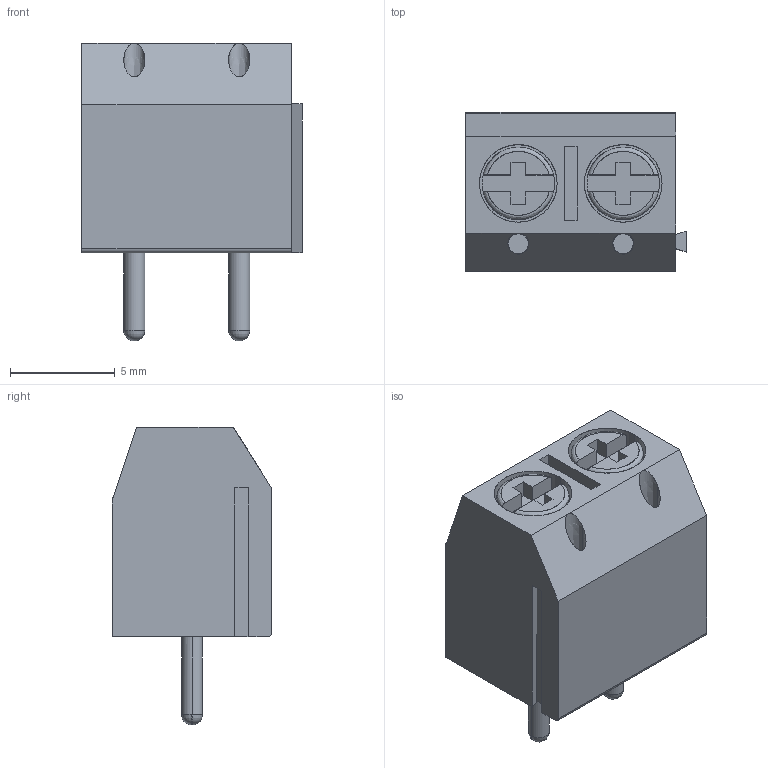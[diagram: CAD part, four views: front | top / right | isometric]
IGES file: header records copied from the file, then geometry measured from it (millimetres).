
Start section: SolidWorks IGES file using analytic representation for surfaces
Global section: file name: D:\OneDrive\00_MOITECH\01_Projects\2020\Metaltex\Modeling\Componentes\BR1\\_Dn\BR102.IGS; native system: SolidWorks 2019; preprocessor: SolidWorks 2019; author: Alan; date: 200220.004633; units: millimetre
Bounding box: 10.5 x 7.6 x 14.2 mm (x, y, z)
Surface area: 827.2 mm2 (no closed solid volume)
Topology: 0 solids, 0 shells, 125 faces, 1150 edges, 1144 vertices
Faces by surface type: bspline 88, revolution 37
